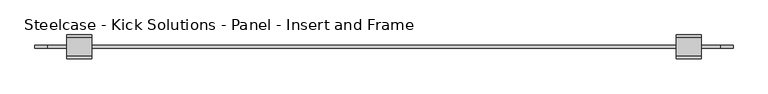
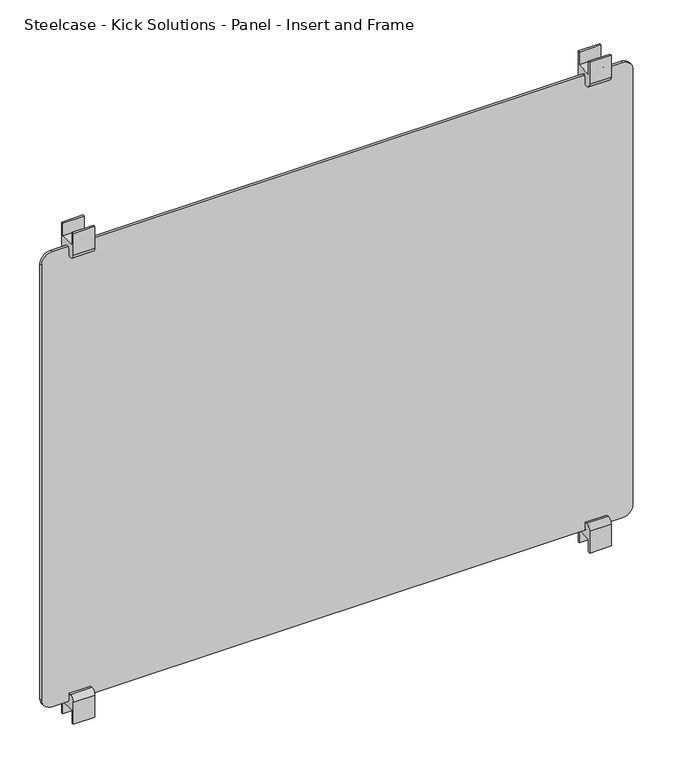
"""IFC4 building model written with IfcOpenShell, lengths in millimetres: furniture geometry, Steelcase - Kick Solutions - Panel - Insert and Frame : Laminate - 54H x 60W."""

from ifc_helpers import new_model, si_unit, point, frame, frame_2d, origin, place, context, project, spatial, polyline, circle_curve, trimmed, segment, composite_curve, outline, extrude, source, transform, mapped, element, save


def steelcase_kick_solutions_panel_insert_and_frame_b50f0cfd(model_context):
    return source(origin(), model_context, "Body", "SweptSolid", [
        extrude(outline(composite_curve([segment(polyline([(5.3821989, 1346.2), (10.144699, 1346.2), (10.144699, 1291.513221)]), True, "CONTINUOUS"), segment(trimmed(circle_curve(frame_2d((-1.6831687, 1291.513221)), 11.8278677), [point((10.144699, 1291.513221))], [point((-1.6831687, 1279.6853533))], False, "CARTESIAN"), True, "CONTINUOUS"), segment(polyline([(-1.6831687, 1279.6853533), (-7.3178012, 1279.6853533), (-7.3178012, 1295.0857521)]), True, "CONTINUOUS"), segment(trimmed(circle_curve(frame_2d((-13.667801, 1295.0857521)), 6.3499998), [point((-7.3178012, 1295.0857521))], [point((-20.0178007, 1295.0857521))], True, "CARTESIAN"), True, "CONTINUOUS"), segment(polyline([(-20.0178007, 1295.0857521), (-20.0178007, 1279.6853527), (-25.2074988, 1279.6853527)]), True, "CONTINUOUS"), segment(trimmed(circle_curve(frame_2d((-25.2074988, 1291.9581549)), 12.2728022), [point((-25.2074988, 1279.6853527))], [point((-37.480301, 1291.9581549))], False, "CARTESIAN"), True, "CONTINUOUS"), segment(polyline([(-37.480301, 1291.9581549), (-37.480301, 1346.2), (-32.7177988, 1346.2), (-32.7177988, 1314.4499758), (5.3821989, 1314.4499758), (5.3821989, 1346.2)]), True, "CONTINUOUS")], self_intersect=False)), frame((1347.1148583, 0.0, 0.0), z_axis=(1.0, 0.0, 0.0), x_axis=(0.0, 1.0, 0.0)), (0.0, 0.0, 1.0), 50.8),
        extrude(outline(composite_curve([segment(polyline([(5.3821989, 120.6499576), (5.3821989, 152.3999815), (-32.7177988, 152.3999815), (-32.7177988, 120.6499576), (-37.480301, 120.6499576), (-37.480301, 174.8918024)]), True, "CONTINUOUS"), segment(trimmed(circle_curve(frame_2d((-25.2074988, 174.8918024)), 12.2728022), [point((-37.480301, 174.8918024))], [point((-25.2074988, 187.1646046))], False, "CARTESIAN"), True, "CONTINUOUS"), segment(polyline([(-25.2074988, 187.1646046), (-20.0178007, 187.1646046), (-20.0178007, 171.7642058)]), True, "CONTINUOUS"), segment(trimmed(circle_curve(frame_2d((-13.667801, 171.7642058)), 6.3499998), [point((-20.0178007, 171.7642058))], [point((-7.3178012, 171.7642058))], True, "CARTESIAN"), True, "CONTINUOUS"), segment(polyline([(-7.3178012, 171.7642058), (-7.3178012, 187.1646046), (-1.6831687, 187.1646046)]), True, "CONTINUOUS"), segment(trimmed(circle_curve(frame_2d((-1.6831687, 175.3367369)), 11.8278677), [point((-1.6831687, 187.1646046))], [point((10.144699, 175.3367369))], False, "CARTESIAN"), True, "CONTINUOUS"), segment(polyline([(10.144699, 175.3367369), (10.144699, 120.6499576), (5.3821989, 120.6499576)]), True, "CONTINUOUS")], self_intersect=False)), frame((1347.1148583, 0.0, 0.0), z_axis=(1.0, 0.0, 0.0), x_axis=(0.0, 1.0, 0.0)), (0.0, 0.0, 1.0), 50.8),
        extrude(outline(composite_curve([segment(polyline([(5.3821989, 1346.2), (10.144699, 1346.2), (10.144699, 1291.5132204)]), True, "CONTINUOUS"), segment(trimmed(circle_curve(frame_2d((-1.6831684, 1291.5132204)), 11.8278674), [point((10.144699, 1291.5132204))], [point((-1.6831684, 1279.685353))], False, "CARTESIAN"), True, "CONTINUOUS"), segment(polyline([(-1.6831684, 1279.685353), (-7.3178009, 1279.685353), (-7.3178009, 1295.0857521)]), True, "CONTINUOUS"), segment(trimmed(circle_curve(frame_2d((-13.667801, 1295.0857521)), 6.3500001), [point((-7.3178009, 1295.0857521))], [point((-20.017801, 1295.0857521))], True, "CARTESIAN"), True, "CONTINUOUS"), segment(polyline([(-20.017801, 1295.0857521), (-20.017801, 1279.685353), (-25.2074991, 1279.685353)]), True, "CONTINUOUS"), segment(trimmed(circle_curve(frame_2d((-25.2074991, 1291.9581549)), 12.2728019), [point((-25.2074991, 1279.685353))], [point((-37.480301, 1291.9581549))], False, "CARTESIAN"), True, "CONTINUOUS"), segment(polyline([(-37.480301, 1291.9581549), (-37.480301, 1346.2), (-32.7177988, 1346.2), (-32.7177988, 1314.4499758), (5.3821989, 1314.4499758), (5.3821989, 1346.2)]), True, "CONTINUOUS")], self_intersect=False)), frame((126.0851417, 0.0, 0.0), z_axis=(1.0, 0.0, 0.0), x_axis=(0.0, 1.0, 0.0)), (0.0, 0.0, 1.0), 50.8),
        extrude(outline(composite_curve([segment(polyline([(5.3821989, 120.6499576), (5.3821989, 152.3999818), (-32.7177988, 152.3999818), (-32.7177988, 120.6499576), (-37.480301, 120.6499576), (-37.480301, 174.8918027)]), True, "CONTINUOUS"), segment(trimmed(circle_curve(frame_2d((-25.2074991, 174.8918027)), 12.2728019), [point((-37.480301, 174.8918027))], [point((-25.2074991, 187.1646046))], False, "CARTESIAN"), True, "CONTINUOUS"), segment(polyline([(-25.2074991, 187.1646046), (-20.017801, 187.1646046), (-20.017801, 171.7642055)]), True, "CONTINUOUS"), segment(trimmed(circle_curve(frame_2d((-13.667801, 171.7642055)), 6.3500001), [point((-20.017801, 171.7642055))], [point((-7.3178009, 171.7642055))], True, "CARTESIAN"), True, "CONTINUOUS"), segment(polyline([(-7.3178009, 171.7642055), (-7.3178009, 187.1646041), (-1.6831684, 187.1646041)]), True, "CONTINUOUS"), segment(trimmed(circle_curve(frame_2d((-1.6831684, 175.3367366)), 11.8278674), [point((-1.6831684, 187.1646041))], [point((10.144699, 175.3367366))], False, "CARTESIAN"), True, "CONTINUOUS"), segment(polyline([(10.144699, 175.3367366), (10.144699, 120.6499576), (5.3821989, 120.6499576)]), True, "CONTINUOUS")], self_intersect=False)), frame((126.0851417, 0.0, 0.0), z_axis=(1.0, 0.0, 0.0), x_axis=(0.0, 1.0, 0.0)), (0.0, 0.0, 1.0), 50.8),
        extrude(outline(composite_curve([segment(polyline([(1301.7499516, 1436.0148583), (1301.7499516, 87.9851417)]), True, "CONTINUOUS"), segment(trimmed(circle_curve(frame_2d((1276.3499516, 87.9851417)), 25.4), [point((1301.7499516, 87.9851417))], [point((1276.3499516, 62.5851417))], False, "CARTESIAN"), True, "CONTINUOUS"), segment(polyline([(1276.3499516, 62.5851417), (190.5000061, 62.5851417)]), True, "CONTINUOUS"), segment(trimmed(circle_curve(frame_2d((190.5000061, 87.9851417)), 25.4), [point((190.5000061, 62.5851417))], [point((165.1000061, 87.9851417))], False, "CARTESIAN"), True, "CONTINUOUS"), segment(polyline([(165.1000061, 87.9851417), (165.1000061, 1436.0148583)]), True, "CONTINUOUS"), segment(trimmed(circle_curve(frame_2d((190.5000061, 1436.0148583)), 25.4), [point((165.1000061, 1436.0148583))], [point((190.5000061, 1461.4148583))], False, "CARTESIAN"), True, "CONTINUOUS"), segment(polyline([(190.5000061, 1461.4148583), (1276.3499516, 1461.4148583)]), True, "CONTINUOUS"), segment(trimmed(circle_curve(frame_2d((1276.3499516, 1436.0148583)), 25.4), [point((1276.3499516, 1461.4148583))], [point((1301.7499516, 1436.0148583))], False, "CARTESIAN"), True, "CONTINUOUS")], self_intersect=False)), frame((0.0, -16.8428004, 0.0), z_axis=(0.0, 1.0, 0.0), x_axis=(0.0, 0.0, 1.0)), (0.0, 0.0, 1.0), 6.3499985),
    ])


if __name__ == "__main__":
    model = new_model("IFC4")
    model_context = context("Model", 3, world=origin())
    ifc_project = project(units=[si_unit("LENGTHUNIT", "METRE", prefix="MILLI")], contexts=[model_context])
    site = spatial("IfcSite", under=ifc_project)
    building = spatial("IfcBuilding", under=site)
    placement = place(None, origin())
    steelcase_kick_solutions_panel_insert_and_frame_shape = steelcase_kick_solutions_panel_insert_and_frame_b50f0cfd(model_context)
    element("IfcFurniture", 1, ObjectType="Steelcase - Kick Solutions - Panel - Insert and Frame : Laminate - 54H x 60W", at=placement, inside=building, context=model_context, shape_type="MappedRepresentation", body=[
        mapped(steelcase_kick_solutions_panel_insert_and_frame_shape, transform((0.0, 0.0, 0.0), x_axis=(1.0, 0.0, 0.0), y_axis=(0.0, 1.0, 0.0), z_axis=(0.0, 0.0, 1.0))),
    ])
    save(model, "model.ifc")
